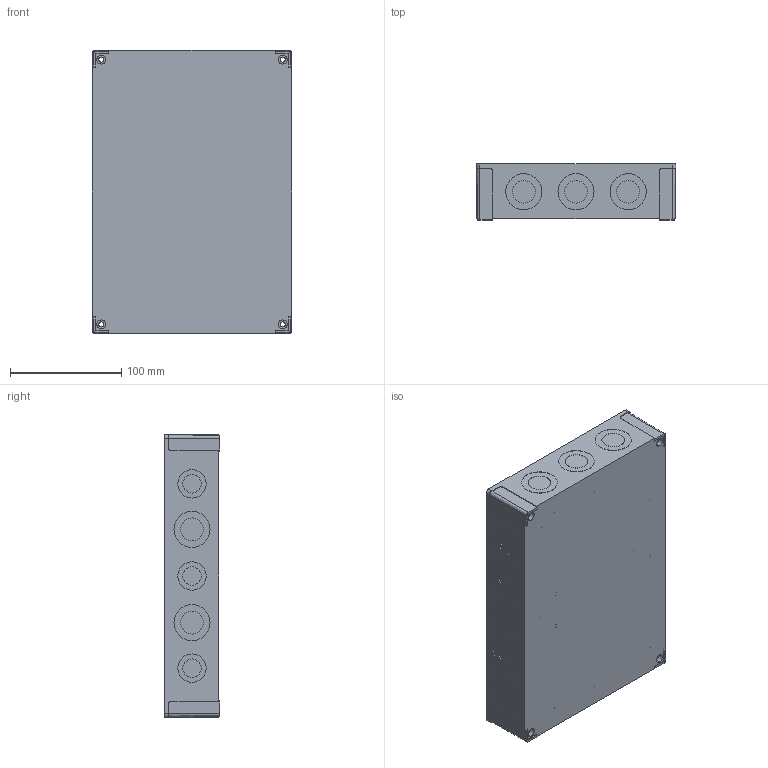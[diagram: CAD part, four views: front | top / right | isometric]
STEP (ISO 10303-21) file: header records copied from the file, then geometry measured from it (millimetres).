
FILE_DESCRIPTION (( 'STEP AP203' ), '1' );
FILE_NAME ('FIBOX_MNXPCM200B.STEP', '2005-06-30T06:34:52', ( ' ' ), ( ' ' ), 'SwSTEP 2.0', 'SolidWorks 2005143', '' );
FILE_SCHEMA (( 'CONFIG_CONTROL_DESIGN' ));
Length unit declared in the file: millimetre
Products named in the file (1): FIBOX_MNXPCM200B
Bounding box: 180.1 x 50 x 255.1 mm (x, y, z)
Volume: 319947.6 mm3; surface area: 183184.8 mm2
Topology: 1 solids, 1 shells, 494 faces, 1125 edges, 750 vertices
Faces by surface type: plane 230, cylinder 228, cone 36
Entity records: 14246 total; most frequent: DIRECTION 2603, CARTESIAN_POINT 2514, ORIENTED_EDGE 2250, EDGE_CURVE 1125, AXIS2_PLACEMENT_3D 1015, VERTEX_POINT 750, EDGE_LOOP 619, VECTOR 573
